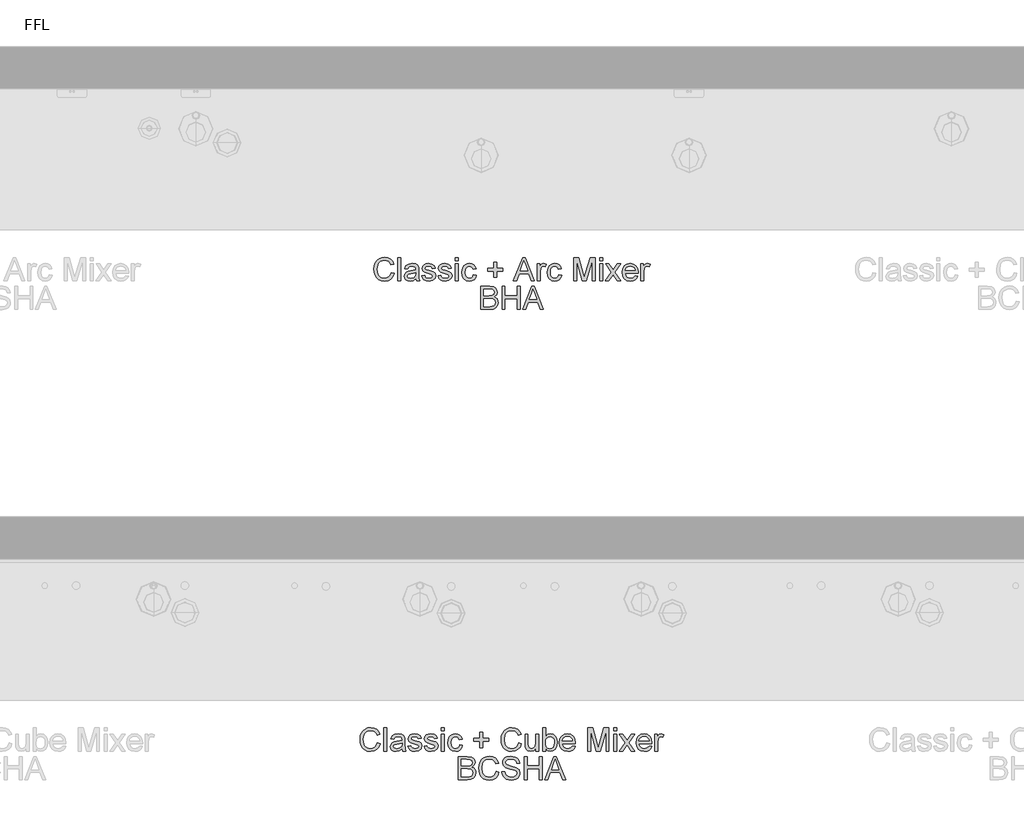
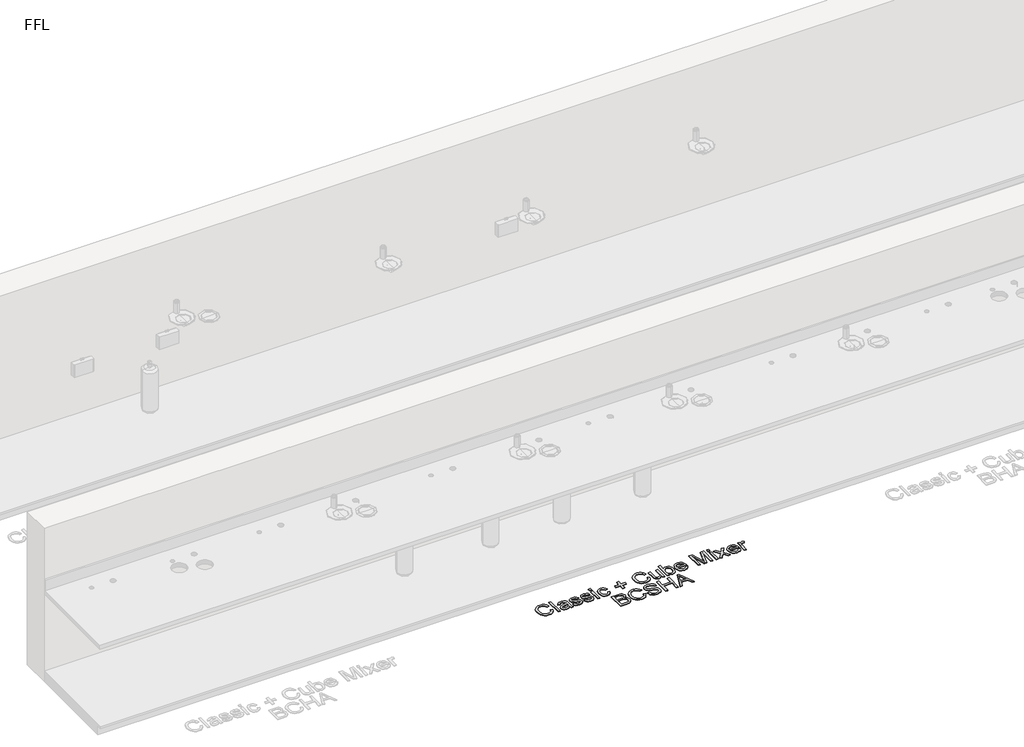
# One storey, part 8 of 13: 2 proxies.
"""IFC4 building model written with IfcOpenShell, lengths in millimetres."""

import ifcopenshell
import ifcopenshell.guid

model = None  # the IFC model being written
_history = None  # IfcOwnerHistory: only IFC2X3 demands one
_inside = {}  # id of a spatial element -> (the spatial element, [elements in it])
_under = {}  # id of a project, library or spatial element -> (it, [spatial elements below it])
_declared = {}  # id of a project -> (the project, [libraries it declares])
_typed = {}  # id of a type object -> (the type object, [elements of that type])
_made_of = {}  # id of a material, layer set ... -> (it, [elements and type objects made of it])


def new_model(schema):
    """Start an empty IFC model of exactly this schema.

    Asked for "IFC4X3", IfcOpenShell would pick the latest addendum, in which some entities
    have other attributes; the version numbers below select the first issue.
    IFC2X3 requires an IfcOwnerHistory on every rooted entity: one is made here for all.
    """
    global model, _history
    if schema == "IFC4X3":
        model = ifcopenshell.file(schema_version=(4, 3, 0, 0))
    else:
        model = ifcopenshell.file(schema=schema)
    _inside.clear()
    _under.clear()
    _declared.clear()
    _typed.clear()
    _made_of.clear()
    _history = None
    if model.schema == "IFC2X3":
        org = make("IfcOrganization", Name="unknown")
        user = make(
            "IfcPersonAndOrganization",
            ThePerson=make("IfcPerson", FamilyName="unknown"),
            TheOrganization=org,
        )
        app = make(
            "IfcApplication",
            ApplicationDeveloper=org,
            Version="unknown",
            ApplicationFullName="unknown",
            ApplicationIdentifier="unknown",
        )
        _history = make(
            "IfcOwnerHistory",
            OwningUser=user,
            OwningApplication=app,
            ChangeAction="ADDED",
            CreationDate=0,
        )
    return model


def make(cls, **values):
    """One entity of the class cls with the attributes given. An attribute that is None is left unset."""
    return model.create_entity(
        cls, **{name: value for name, value in values.items() if value is not None}
    )


def rooted(cls, **values):
    """An entity with a GlobalId (a new one), such as an element, a storey or a relation."""
    return make(cls, GlobalId=ifcopenshell.guid.new(), OwnerHistory=_history, **values)


def si_unit(unit_type, name, prefix=None):
    """IfcSIUnit, for example si_unit("LENGTHUNIT", "METRE", prefix="MILLI")."""
    return make("IfcSIUnit", UnitType=unit_type, Prefix=prefix, Name=name)


def assignment(units):
    """IfcUnitAssignment: the units of a project."""
    return None if units is None else make("IfcUnitAssignment", Units=units)


def point(xyz):
    """IfcCartesianPoint."""
    return None if xyz is None else make("IfcCartesianPoint", Coordinates=xyz)


def direction(xyz):
    """IfcDirection."""
    return None if xyz is None else make("IfcDirection", DirectionRatios=xyz)


def frame(location, z_axis=None, x_axis=None):
    """IfcAxis2Placement3D, a coordinate frame: its origin and axes. An axis left out is left unset."""
    return make(
        "IfcAxis2Placement3D",
        Location=point(location),
        Axis=direction(z_axis),
        RefDirection=direction(x_axis),
    )


def origin():
    """The frame at (0, 0, 0) with its axes left unset."""
    return frame((0.0, 0.0, 0.0))


def origin_with_axes():
    """The frame at (0, 0, 0) with the z axis (0, 0, 1) and the x axis (1, 0, 0) written out."""
    return frame((0.0, 0.0, 0.0), z_axis=(0.0, 0.0, 1.0), x_axis=(1.0, 0.0, 0.0))


def place(relative_to, where):
    """IfcLocalPlacement: puts the frame where relative to a parent placement (None: the world)."""
    return make(
        "IfcLocalPlacement", PlacementRelTo=relative_to, RelativePlacement=where
    )


def context(
    kind, dimensions, precision=None, world=None, true_north=None, identifier=None
):
    """IfcGeometricRepresentationContext, for example the 3D "Model" context."""
    return make(
        "IfcGeometricRepresentationContext",
        ContextIdentifier=identifier,
        ContextType=kind,
        CoordinateSpaceDimension=dimensions,
        Precision=precision,
        WorldCoordinateSystem=world,
        TrueNorth=true_north,
    )


def project(units=None, contexts=None):
    """IfcProject with its units and contexts."""
    return rooted(
        "IfcProject",
        Name="project",
        RepresentationContexts=contexts,
        UnitsInContext=assignment(units),
    )


def spatial(cls, under=None, at=None, **own):
    """A site, building, storey or space (cls), placed at a placement, below another one or the project."""
    s = rooted(cls, ObjectPlacement=at, **own)
    if under is not None:
        _under.setdefault(under.id(), (under, []))[1].append(s)
    return s


def polyline(points):
    """IfcPolyline through the points."""
    return make("IfcPolyline", Points=[point(p) for p in points])


def outline(outer, holes=None, kind="AREA"):
    """IfcArbitraryClosedProfileDef: a profile drawn as a closed curve; with holes, ...WithVoids."""
    if holes is None:
        return make("IfcArbitraryClosedProfileDef", ProfileType=kind, OuterCurve=outer)
    return make(
        "IfcArbitraryProfileDefWithVoids",
        ProfileType=kind,
        OuterCurve=outer,
        InnerCurves=holes,
    )


def extrude(swept, where, along, depth):
    """IfcExtrudedAreaSolid: the profile swept, set in the frame where, extruded along a direction by depth."""
    return make(
        "IfcExtrudedAreaSolid",
        SweptArea=swept,
        Position=where,
        ExtrudedDirection=direction(along),
        Depth=depth,
    )


def shape(context_of_items, identifier, shape_type, items):
    """IfcShapeRepresentation: the items that make up one representation, for example the "Body"."""
    return make(
        "IfcShapeRepresentation",
        ContextOfItems=context_of_items,
        RepresentationIdentifier=identifier,
        RepresentationType=shape_type,
        Items=items,
    )


def made_of(thing, what):
    """Note that an element or type object is made of a material, layer set ...; save() writes the relation."""
    if what is not None:
        _made_of.setdefault(what.id(), (what, []))[1].append(thing)
    return thing


def element(
    cls,
    number,
    at=None,
    inside=None,
    cuts=None,
    type_object=None,
    material=None,
    context=None,
    identifier="Body",
    shape_type=None,
    held_by="IfcProductDefinitionShape",
    body=None,
    shapes=None,
    **own,
):
    """One element of the class cls, such as IfcWall. Its Tag is "e" and its number.

    at: its placement. inside: the storey or other place that contains it. cuts: it is an
    opening in that element (IfcRelVoidsElement). A single representation is given by context,
    identifier, shape_type and body (its items); several are given by shapes. held_by: the class
    of the entity that holds the representations. save() writes the other relations.
    """
    e = rooted(cls, Tag="e%d" % number, ObjectPlacement=at, **own)
    if body is not None:
        shapes = [shape(context, identifier, shape_type, body)]
    if shapes is not None:
        e.Representation = make(held_by, Representations=shapes)
    if inside is not None:
        _inside.setdefault(inside.id(), (inside, []))[1].append(e)
    if cuts is not None:
        rooted(
            "IfcRelVoidsElement", RelatingBuildingElement=cuts, RelatedOpeningElement=e
        )
    if type_object is not None:
        _typed.setdefault(type_object.id(), (type_object, []))[1].append(e)
    return made_of(e, material)


def aggregate(whole, parts):
    """IfcRelAggregates: a whole, such as a stair, and the parts it consists of."""
    return rooted("IfcRelAggregates", RelatingObject=whole, RelatedObjects=parts)


def save(model, path):
    """Write the relations noted so far, then the file.

    IfcRelAggregates (storeys below a building ...), IfcRelContainedInSpatialStructure (elements
    in a storey), IfcRelDefinesByType, IfcRelAssociatesMaterial and IfcRelDeclares: one each for
    every whole, place, type object, material and project.
    """
    for whole, parts in _under.values():
        aggregate(whole, parts)
    for where, things in _inside.values():
        rooted(
            "IfcRelContainedInSpatialStructure",
            RelatedElements=things,
            RelatingStructure=where,
        )
    for kind, things in _typed.values():
        rooted("IfcRelDefinesByType", RelatedObjects=things, RelatingType=kind)
    for what, things in _made_of.values():
        rooted("IfcRelAssociatesMaterial", RelatedObjects=things, RelatingMaterial=what)
    for by, libraries in _declared.values():
        rooted("IfcRelDeclares", RelatingContext=by, RelatedDefinitions=libraries)
    model.write(path)


model = new_model("IFC4")

# Units and contexts
model_context = context("Model", 3, world=origin())
ifc_project = project(units=[si_unit("LENGTHUNIT", "METRE", prefix="MILLI")], contexts=[model_context])

# Site, building, storey
site = spatial("IfcSite", under=ifc_project)
building = spatial("IfcBuilding", under=site)
storey = spatial("IfcBuildingStorey", under=building, Name="FFL", Elevation=0.0)

# Proxies
placement = place(None, origin())
element("IfcBuildingElementProxy", 1, Name="150mm Arial", ObjectType="150mm Arial", at=placement, inside=storey, context=model_context, shape_type="SweptSolid", body=[
    extrude(outline(polyline([(391.419638, 3676.3018309), (409.8811765, 3671.5422155), (401.3625467, 3650.0292948), (387.9941573, 3634.3126482), (370.4340611, 3624.698766), (349.3403111, 3621.4941386), (327.9265491, 3623.9190184), (310.92084, 3631.1936578), (297.8859842, 3643.065653), (288.3847823, 3659.2826001), (282.584001, 3678.3481049), (280.6504073, 3698.7657732), (282.8364049, 3720.3012299), (289.3943976, 3738.8979847), (299.9818375, 3753.9655929), (314.2561765, 3764.9136097), (331.185263, 3771.5797756), (349.7369457, 3773.8018309), (369.9788327, 3770.9262299), (386.7141092, 3762.299427), (399.4199385, 3748.4532732), (407.5734842, 3729.9196193), (389.1119457, 3725.5205809), (382.7117053, 3738.9836217), (373.967715, 3748.2188982), (362.7718015, 3753.5599439), (349.0157919, 3755.3402924), (333.1594217, 3753.3661338), (320.1335803, 3747.4436578), (310.2492654, 3738.1948597), (303.8174746, 3726.2417347), (299.1119457, 3698.8018309), (304.6828592, 3666.9989463), (311.8042534, 3655.1224439), (322.0266092, 3646.6804367), (334.2817174, 3641.6368669), (347.5013688, 3639.955677), (362.911525, 3642.2453405), (375.7525707, 3649.1143309), (385.4475827, 3660.4905328), (391.419638, 3676.3018309)])), origin_with_axes(), (0.0, 0.0, 1.0), 5.0),
    extrude(outline(polyline([(432.9580996, 3623.8018309), (432.9580996, 3771.4941386), (451.419638, 3771.4941386), (451.419638, 3623.8018309), (432.9580996, 3623.8018309)])), origin_with_axes(), (0.0, 0.0, 1.0), 5.0),
    extrude(outline(polyline([(548.342715, 3637.6479847), (530.4400707, 3625.1359655), (510.6624265, 3621.4941386), (495.2342414, 3623.6846434), (483.8535323, 3630.2561578), (476.8358039, 3640.2351242), (474.4965611, 3652.6479847), (478.030215, 3667.2513501), (487.3150707, 3677.8523117), (500.2417534, 3683.910004), (516.2153111, 3686.6864463), (548.2345419, 3693.0326001), (548.342715, 3697.143177), (547.0716813, 3705.3823597), (543.2585803, 3710.7729847), (534.7309361, 3714.7753886), (522.8499265, 3716.1095232), (504.1720419, 3712.5578405), (495.2657919, 3699.955677), (476.8042534, 3702.2633693), (484.7910323, 3720.2922155), (500.872763, 3730.8571193), (525.2297342, 3734.5710617), (547.6035323, 3731.2898117), (560.2417534, 3723.050629), (565.9028111, 3710.5205809), (566.8042534, 3694.3667347), (566.8042534, 3671.3979847), (567.7417534, 3639.3246674), (571.419638, 3623.8018309), (552.9580996, 3623.8018309), (548.342715, 3637.6479847)]), holes=[polyline([(548.342715, 3674.5710617), (518.5590611, 3668.910004), (502.6756476, 3665.9172155), (495.482138, 3661.049427), (492.9580996, 3653.9460617), (498.4568976, 3643.9580809), (514.592715, 3639.955677), (533.2705996, 3644.3727443), (545.3138688, 3655.0638501), (548.2345419, 3669.3426963), (548.342715, 3674.5710617)])]), origin_with_axes(), (0.0, 0.0, 1.0), 5.0),
    extrude(outline(polyline([(585.2657919, 3656.1095232), (603.7273303, 3658.4172155), (606.638989, 3650.5205809), (612.2730034, 3644.7152924), (631.8523303, 3639.955677), (650.6744457, 3644.3186578), (656.8042534, 3654.5590424), (650.638388, 3662.8523117), (631.6359842, 3668.1167347), (603.8355034, 3677.1491867), (591.70209, 3687.6960617), (587.5734842, 3702.5878886), (590.8907919, 3716.3438982), (599.9412726, 3726.8547155), (611.6780515, 3732.3174559), (627.561465, 3734.5710617), (650.0254073, 3730.9472636), (664.3042534, 3721.1395713), (670.6504073, 3704.5710617), (652.1888688, 3702.2633693), (645.247763, 3712.4496674), (629.0037726, 3716.1095232), (611.3355034, 3712.611927), (606.0350226, 3704.4628886), (608.2345419, 3699.0902924), (615.1215611, 3695.0157732), (631.0230034, 3691.0854847), (658.1203592, 3682.3955809), (670.7044938, 3672.5518309), (675.2657919, 3656.5061578), (669.9112246, 3638.8378886), (654.4605034, 3626.019379), (631.5999265, 3621.4941386), (612.9851428, 3623.675629), (599.4004073, 3630.2201001), (590.3318976, 3641.0554367), (585.2657919, 3656.1095232)])), origin_with_axes(), (0.0, 0.0, 1.0), 5.0),
    extrude(outline(polyline([(689.1119457, 3656.1095232), (707.5734842, 3658.4172155), (710.4851428, 3650.5205809), (716.1191573, 3644.7152924), (735.6984842, 3639.955677), (754.5205996, 3644.3186578), (760.6504073, 3654.5590424), (754.4845419, 3662.8523117), (735.482138, 3668.1167347), (707.6816573, 3677.1491867), (695.5482438, 3687.6960617), (691.419638, 3702.5878886), (694.7369457, 3716.3438982), (703.7874265, 3726.8547155), (715.5242053, 3732.3174559), (731.4076188, 3734.5710617), (753.8715611, 3730.9472636), (768.1504073, 3721.1395713), (774.4965611, 3704.5710617), (756.0350226, 3702.2633693), (749.0939169, 3712.4496674), (732.8499265, 3716.1095232), (715.1816573, 3712.611927), (709.8811765, 3704.4628886), (712.0806957, 3699.0902924), (718.967715, 3695.0157732), (734.8691573, 3691.0854847), (761.966513, 3682.3955809), (774.5506476, 3672.5518309), (779.1119457, 3656.5061578), (773.7573784, 3638.8378886), (758.3066573, 3626.019379), (735.4460803, 3621.4941386), (716.8312967, 3623.675629), (703.2465611, 3630.2201001), (694.1780515, 3641.0554367), (689.1119457, 3656.1095232)])), origin_with_axes(), (0.0, 0.0, 1.0), 5.0),
    extrude(outline(polyline([(799.8811765, 3623.8018309), (799.8811765, 3732.2633693), (818.342715, 3732.2633693), (818.342715, 3623.8018309), (799.8811765, 3623.8018309)])), origin_with_axes(), (0.0, 0.0, 1.0), 5.0),
    extrude(outline(polyline([(799.8811765, 3753.0326001), (799.8811765, 3771.4941386), (818.342715, 3771.4941386), (818.342715, 3753.0326001), (799.8811765, 3753.0326001)])), origin_with_axes(), (0.0, 0.0, 1.0), 5.0),
    extrude(outline(polyline([(915.2657919, 3663.0326001), (933.7273303, 3660.7249078), (928.5800948, 3644.3051362), (918.9076188, 3631.8967828), (905.6203592, 3624.0947996), (889.6287726, 3621.4941386), (869.990852, 3625.1224439), (854.6347823, 3636.0073597), (844.7234241, 3653.6711217), (841.419638, 3677.6359655), (847.0626669, 3708.3030328), (854.1840611, 3719.8009294), (864.2621861, 3728.0085617), (876.318977, 3732.9304367), (889.3763688, 3734.5710617), (904.9758279, 3732.3174559), (917.4472823, 3725.5566386), (926.3940972, 3714.6491867), (931.419638, 3699.955677), (912.9580996, 3697.6479847), (904.3943976, 3711.4761097), (889.5205996, 3716.1095232), (877.5900106, 3713.8288742), (868.1203592, 3706.986927), (861.9409722, 3695.2140905), (859.8811765, 3678.1407732), (861.8959, 3660.8375881), (867.9400707, 3649.0241867), (877.2384481, 3642.2228044), (889.0157919, 3639.955677), (898.5755875, 3641.3709415), (906.4136284, 3645.6167347), (912.115251, 3652.8012299), (915.2657919, 3663.0326001)])), origin_with_axes(), (0.0, 0.0, 1.0), 5.0),
    extrude(outline(polyline([(1044.4965611, 3646.878754), (1044.4965611, 3686.1095232), (1005.2657919, 3686.1095232), (1005.2657919, 3704.5710617), (1044.4965611, 3704.5710617), (1044.4965611, 3743.8018309), (1062.9580996, 3743.8018309), (1062.9580996, 3704.5710617), (1102.1888688, 3704.5710617), (1102.1888688, 3686.1095232), (1062.9580996, 3686.1095232), (1062.9580996, 3646.878754), (1044.4965611, 3646.878754)])), origin_with_axes(), (0.0, 0.0, 1.0), 5.0),
    extrude(outline(polyline([(1170.373965, 3623.8018309), (1229.3282919, 3771.4941386), (1245.0494457, 3771.4941386), (1304.0037726, 3623.8018309), (1284.4965611, 3623.8018309), (1267.5855034, 3669.955677), (1206.7561765, 3669.955677), (1189.8811765, 3623.8018309), (1170.373965, 3623.8018309)]), holes=[polyline([(1213.5350226, 3688.4172155), (1260.842715, 3688.4172155), (1247.5374265, 3724.7273117), (1237.1888688, 3753.0326001), (1227.9941573, 3727.9003886), (1213.5350226, 3688.4172155)])]), origin_with_axes(), (0.0, 0.0, 1.0), 5.0),
    extrude(outline(polyline([(1321.419638, 3623.8018309), (1321.419638, 3732.2633693), (1337.5734842, 3732.2633693), (1337.5734842, 3716.2176963), (1349.0398303, 3731.0013501), (1360.5782919, 3734.5710617), (1379.1119457, 3728.8739463), (1372.9460803, 3712.3234655), (1359.9653111, 3716.1095232), (1349.5266092, 3712.4676963), (1342.873965, 3702.3715424), (1339.8811765, 3680.8090424), (1339.8811765, 3623.8018309), (1321.419638, 3623.8018309)])), origin_with_axes(), (0.0, 0.0, 1.0), 5.0),
    extrude(outline(polyline([(1459.8811765, 3663.0326001), (1478.342715, 3660.7249078), (1473.1954794, 3644.3051362), (1463.5230034, 3631.8967828), (1450.2357438, 3624.0947996), (1434.2441573, 3621.4941386), (1414.6062366, 3625.1224439), (1399.2501669, 3636.0073597), (1389.3388087, 3653.6711217), (1386.0350226, 3677.6359655), (1391.6780515, 3708.3030328), (1398.7994457, 3719.8009294), (1408.8775707, 3728.0085617), (1420.9343616, 3732.9304367), (1433.9917534, 3734.5710617), (1449.5912125, 3732.3174559), (1462.0626669, 3725.5566386), (1471.0094818, 3714.6491867), (1476.0350226, 3699.955677), (1457.5734842, 3697.6479847), (1449.0097823, 3711.4761097), (1434.1359842, 3716.1095232), (1422.2053952, 3713.8288742), (1412.7357438, 3706.986927), (1406.5563568, 3695.2140905), (1404.4965611, 3678.1407732), (1406.5112847, 3660.8375881), (1412.5554553, 3649.0241867), (1421.8538327, 3642.2228044), (1433.6311765, 3639.955677), (1443.1909722, 3641.3709415), (1451.029013, 3645.6167347), (1456.7306356, 3652.8012299), (1459.8811765, 3663.0326001)])), origin_with_axes(), (0.0, 0.0, 1.0), 5.0),
    extrude(outline(polyline([(1554.4965611, 3623.8018309), (1554.4965611, 3771.4941386), (1586.263388, 3771.4941386), (1616.4797342, 3667.3955809), (1622.5734842, 3645.6527924), (1629.1720419, 3669.1984655), (1658.8835803, 3771.4941386), (1690.6504073, 3771.4941386), (1690.6504073, 3623.8018309), (1672.1888688, 3623.8018309), (1672.1888688, 3753.0326001), (1635.0855034, 3623.8018309), (1610.061465, 3623.8018309), (1572.9580996, 3753.0326001), (1572.9580996, 3623.8018309), (1554.4965611, 3623.8018309)])), origin_with_axes(), (0.0, 0.0, 1.0), 5.0),
    extrude(outline(polyline([(1720.6504073, 3753.0326001), (1720.6504073, 3771.4941386), (1739.1119457, 3771.4941386), (1739.1119457, 3753.0326001), (1720.6504073, 3753.0326001)])), origin_with_axes(), (0.0, 0.0, 1.0), 5.0),
    extrude(outline(polyline([(1720.6504073, 3623.8018309), (1720.6504073, 3732.2633693), (1739.1119457, 3732.2633693), (1739.1119457, 3623.8018309), (1720.6504073, 3623.8018309)])), origin_with_axes(), (0.0, 0.0, 1.0), 5.0),
    extrude(outline(polyline([(1755.2657919, 3623.8018309), (1794.7129073, 3678.3210617), (1757.5734842, 3732.2633693), (1779.7850226, 3732.2633693), (1797.7056957, 3706.3018309), (1806.0710803, 3694.0422155), (1813.3186765, 3704.066254), (1833.7273303, 3732.2633693), (1855.9388688, 3732.2633693), (1816.9244457, 3678.3210617), (1854.4965611, 3623.8018309), (1832.2850226, 3623.8018309), (1809.6768496, 3656.5782732), (1805.530215, 3662.5638501), (1777.4773303, 3623.8018309), (1755.2657919, 3623.8018309)])), origin_with_axes(), (0.0, 0.0, 1.0), 5.0),
    extrude(outline(polyline([(1946.5879073, 3656.1095232), (1964.6888688, 3653.8018309), (1958.1669337, 3640.1630088), (1947.7597823, 3629.9676963), (1933.7017895, 3623.612528), (1916.2273303, 3621.4941386), (1894.5656717, 3625.1494871), (1877.8980034, 3636.1155328), (1867.2699986, 3653.6801362), (1863.7273303, 3677.1311578), (1867.3060563, 3701.3709415), (1878.0422342, 3719.4989463), (1894.4845419, 3730.8030328), (1915.1816573, 3734.5710617), (1935.2342414, 3730.8120472), (1951.2573784, 3719.535004), (1961.7636885, 3701.4430568), (1965.2657919, 3677.2393309), (1965.1576188, 3672.2633693), (1882.1888688, 3672.2633693), (1885.3844818, 3658.4442588), (1892.8078592, 3648.285004), (1903.521501, 3642.0380088), (1916.5879073, 3639.955677), (1934.6888688, 3643.8138501), (1946.5879073, 3656.1095232)]), holes=[polyline([(1882.1888688, 3690.7249078), (1946.8042534, 3690.7249078), (1944.3072582, 3700.4785136), (1939.4124265, 3707.455677), (1928.6492053, 3713.9460617), (1915.1095419, 3716.1095232), (1902.6651308, 3714.3832612), (1892.3751669, 3709.2044751), (1885.2222222, 3701.1320592), (1882.1888688, 3690.7249078)])]), origin_with_axes(), (0.0, 0.0, 1.0), 5.0),
    extrude(outline(polyline([(1983.7273303, 3623.8018309), (1983.7273303, 3732.2633693), (1999.8811765, 3732.2633693), (1999.8811765, 3716.2176963), (2011.3475226, 3731.0013501), (2022.8859842, 3734.5710617), (2041.419638, 3728.8739463), (2035.2537726, 3712.3234655), (2022.2730034, 3716.1095232), (2011.8343015, 3712.4676963), (2005.1816573, 3702.3715424), (2002.1888688, 3680.8090424), (2002.1888688, 3623.8018309), (1983.7273303, 3623.8018309)])), origin_with_axes(), (0.0, 0.0, 1.0), 5.0),
    extrude(outline(polyline([(961.419638, 3441.4941386), (961.419638, 3589.1864463), (1017.7778111, 3589.1864463), (1045.3799746, 3584.8414943), (1054.6558159, 3579.3291746), (1061.6780515, 3571.4821193), (1067.5734842, 3552.5878886), (1062.6155515, 3535.3342828), (1047.6335803, 3522.2633693), (1058.0948183, 3516.800629), (1065.8246861, 3508.4893309), (1070.5978231, 3497.8793549), (1072.1888688, 3485.5205809), (1067.8439169, 3465.6708213), (1057.0806957, 3451.5362059), (1041.0169938, 3444.0362059), (1017.3451188, 3441.4941386), (961.419638, 3441.4941386)]), holes=[polyline([(979.8811765, 3529.1864463), (1013.5951188, 3529.1864463), (1033.2826188, 3530.7729847), (1045.1275707, 3537.6059174), (1049.1119457, 3549.6311578), (1045.3980034, 3561.674427), (1034.7609842, 3568.7958213), (1011.0350226, 3570.7249078), (979.8811765, 3570.7249078), (979.8811765, 3529.1864463)]), polyline([(979.8811765, 3459.955677), (1017.7417534, 3459.955677), (1031.4436765, 3460.6768309), (1043.0362246, 3464.6972636), (1050.716513, 3472.9003886), (1053.7273303, 3485.3402924), (1050.1936765, 3499.691254), (1038.7453592, 3508.2549559), (1015.9388688, 3510.7249078), (979.8811765, 3510.7249078), (979.8811765, 3459.955677)])]), origin_with_axes(), (0.0, 0.0, 1.0), 5.0),
    extrude(outline(polyline([(1097.5734842, 3441.4941386), (1097.5734842, 3589.1864463), (1116.0350226, 3589.1864463), (1116.0350226, 3529.1864463), (1194.4965611, 3529.1864463), (1194.4965611, 3589.1864463), (1212.9580996, 3589.1864463), (1212.9580996, 3441.4941386), (1194.4965611, 3441.4941386), (1194.4965611, 3510.7249078), (1116.0350226, 3510.7249078), (1116.0350226, 3441.4941386), (1097.5734842, 3441.4941386)])), origin_with_axes(), (0.0, 0.0, 1.0), 5.0),
    extrude(outline(polyline([(1228.0662726, 3441.4941386), (1287.0205996, 3589.1864463), (1302.7417534, 3589.1864463), (1361.6960803, 3441.4941386), (1342.1888688, 3441.4941386), (1325.2778111, 3487.6479847), (1264.4484842, 3487.6479847), (1247.5734842, 3441.4941386), (1228.0662726, 3441.4941386)]), holes=[polyline([(1271.2273303, 3506.1095232), (1318.5350226, 3506.1095232), (1305.2297342, 3542.4196193), (1294.8811765, 3570.7249078), (1285.686465, 3545.5926963), (1271.2273303, 3506.1095232)])]), origin_with_axes(), (0.0, 0.0, 1.0), 5.0),
])
element("IfcBuildingElementProxy", 2, Name="150mm Arial", ObjectType="150mm Arial", at=placement, inside=storey, context=model_context, shape_type="SweptSolid", body=[
    extrude(outline(polyline([(302.5723994, 676.3018309), (321.0339379, 671.5422155), (312.5153081, 650.0292948), (299.1469187, 634.3126482), (281.5868225, 624.698766), (260.4930725, 621.4941386), (239.0793105, 623.9190184), (222.0736014, 631.1936578), (209.0387456, 643.065653), (199.5375437, 659.2826001), (193.7367624, 678.3481049), (191.8031687, 698.7657732), (193.9891663, 720.3012299), (200.5471591, 738.8979847), (211.134599, 753.9655929), (225.4089379, 764.9136097), (242.3380244, 771.5797756), (260.8897071, 773.8018309), (281.1315941, 770.9262299), (297.8668706, 762.299427), (310.5726999, 748.4532732), (318.7262456, 729.9196193), (300.2647071, 725.5205809), (293.8644667, 738.9836217), (285.1204764, 748.2188982), (273.9245629, 753.5599439), (260.1685533, 755.3402924), (244.3121831, 753.3661338), (231.2863417, 747.4436578), (221.4020268, 738.1948597), (214.970236, 726.2417347), (210.2647071, 698.8018309), (215.8356206, 666.9989463), (222.9570148, 655.1224439), (233.1793706, 646.6804367), (245.4344788, 641.6368669), (258.6541302, 639.955677), (274.0642865, 642.2453405), (286.9053321, 649.1143309), (296.6003441, 660.4905328), (302.5723994, 676.3018309)])), origin_with_axes(), (0.0, 0.0, 1.0), 5.0),
    extrude(outline(polyline([(344.110861, 623.8018309), (344.110861, 771.4941386), (362.5723994, 771.4941386), (362.5723994, 623.8018309), (344.110861, 623.8018309)])), origin_with_axes(), (0.0, 0.0, 1.0), 5.0),
    extrude(outline(polyline([(459.4954764, 637.6479847), (441.5928321, 625.1359655), (421.8151879, 621.4941386), (406.3870028, 623.6846434), (395.0062937, 630.2561578), (387.9885653, 640.2351242), (385.6493225, 652.6479847), (389.1829764, 667.2513501), (398.4678321, 677.8523117), (411.3945148, 683.910004), (427.3680725, 686.6864463), (459.3873033, 693.0326001), (459.4954764, 697.143177), (458.2244427, 705.3823597), (454.4113417, 710.7729847), (445.8836975, 714.7753886), (434.0026879, 716.1095232), (415.3248033, 712.5578405), (406.4185533, 699.955677), (387.9570148, 702.2633693), (395.9437937, 720.2922155), (412.0255244, 730.8571193), (436.3824956, 734.5710617), (458.7562937, 731.2898117), (471.3945148, 723.050629), (477.0555725, 710.5205809), (477.9570148, 694.3667347), (477.9570148, 671.3979847), (478.8945148, 639.3246674), (482.5723994, 623.8018309), (464.110861, 623.8018309), (459.4954764, 637.6479847)]), holes=[polyline([(459.4954764, 674.5710617), (429.7118225, 668.910004), (413.8284091, 665.9172155), (406.6348994, 661.049427), (404.110861, 653.9460617), (409.6096591, 643.9580809), (425.7454764, 639.955677), (444.423361, 644.3727443), (456.4666302, 655.0638501), (459.3873033, 669.3426963), (459.4954764, 674.5710617)])]), origin_with_axes(), (0.0, 0.0, 1.0), 5.0),
    extrude(outline(polyline([(496.4185533, 656.1095232), (514.8800917, 658.4172155), (517.7917504, 650.5205809), (523.4257648, 644.7152924), (543.0050917, 639.955677), (561.8272071, 644.3186578), (567.9570148, 654.5590424), (561.7911494, 662.8523117), (542.7887456, 668.1167347), (514.9882648, 677.1491867), (502.8548514, 687.6960617), (498.7262456, 702.5878886), (502.0435533, 716.3438982), (511.0940341, 726.8547155), (522.8308129, 732.3174559), (538.7142264, 734.5710617), (561.1781687, 730.9472636), (575.4570148, 721.1395713), (581.8031687, 704.5710617), (563.3416302, 702.2633693), (556.4005244, 712.4496674), (540.1565341, 716.1095232), (522.4882648, 712.611927), (517.1877841, 704.4628886), (519.3873033, 699.0902924), (526.2743225, 695.0157732), (542.1757648, 691.0854847), (569.2731206, 682.3955809), (581.8572552, 672.5518309), (586.4185533, 656.5061578), (581.063986, 638.8378886), (565.6132648, 626.019379), (542.7526879, 621.4941386), (524.1379042, 623.675629), (510.5531687, 630.2201001), (501.4846591, 641.0554367), (496.4185533, 656.1095232)])), origin_with_axes(), (0.0, 0.0, 1.0), 5.0),
    extrude(outline(polyline([(600.2647071, 656.1095232), (618.7262456, 658.4172155), (621.6379042, 650.5205809), (627.2719187, 644.7152924), (646.8512456, 639.955677), (665.673361, 644.3186578), (671.8031687, 654.5590424), (665.6373033, 662.8523117), (646.6348994, 668.1167347), (618.8344187, 677.1491867), (606.7010052, 687.6960617), (602.5723994, 702.5878886), (605.8897071, 716.3438982), (614.9401879, 726.8547155), (626.6769667, 732.3174559), (642.5603802, 734.5710617), (665.0243225, 730.9472636), (679.3031687, 721.1395713), (685.6493225, 704.5710617), (667.1877841, 702.2633693), (660.2466783, 712.4496674), (644.0026879, 716.1095232), (626.3344187, 712.611927), (621.0339379, 704.4628886), (623.2334571, 699.0902924), (630.1204764, 695.0157732), (646.0219187, 691.0854847), (673.1192744, 682.3955809), (685.7034091, 672.5518309), (690.2647071, 656.5061578), (684.9101398, 638.8378886), (669.4594187, 626.019379), (646.5988417, 621.4941386), (627.9840581, 623.675629), (614.3993225, 630.2201001), (605.3308129, 641.0554367), (600.2647071, 656.1095232)])), origin_with_axes(), (0.0, 0.0, 1.0), 5.0),
    extrude(outline(polyline([(711.0339379, 623.8018309), (711.0339379, 732.2633693), (729.4954764, 732.2633693), (729.4954764, 623.8018309), (711.0339379, 623.8018309)])), origin_with_axes(), (0.0, 0.0, 1.0), 5.0),
    extrude(outline(polyline([(711.0339379, 753.0326001), (711.0339379, 771.4941386), (729.4954764, 771.4941386), (729.4954764, 753.0326001), (711.0339379, 753.0326001)])), origin_with_axes(), (0.0, 0.0, 1.0), 5.0),
    extrude(outline(polyline([(826.4185533, 663.0326001), (844.8800917, 660.7249078), (839.7328562, 644.3051362), (830.0603802, 631.8967828), (816.7731206, 624.0947996), (800.7815341, 621.4941386), (781.1436134, 625.1224439), (765.7875437, 636.0073597), (755.8761855, 653.6711217), (752.5723994, 677.6359655), (758.2154283, 708.3030328), (765.3368225, 719.8009294), (775.4149475, 728.0085617), (787.4717384, 732.9304367), (800.5291302, 734.5710617), (816.1285893, 732.3174559), (828.6000437, 725.5566386), (837.5468586, 714.6491867), (842.5723994, 699.955677), (824.110861, 697.6479847), (815.5471591, 711.4761097), (800.673361, 716.1095232), (788.742772, 713.8288742), (779.2731206, 706.986927), (773.0937336, 695.2140905), (771.0339379, 678.1407732), (773.0486615, 660.8375881), (779.0928321, 649.0241867), (788.3912095, 642.2228044), (800.1685533, 639.955677), (809.728349, 641.3709415), (817.5663898, 645.6167347), (823.2680124, 652.8012299), (826.4185533, 663.0326001)])), origin_with_axes(), (0.0, 0.0, 1.0), 5.0),
    extrude(outline(polyline([(955.6493225, 646.878754), (955.6493225, 686.1095232), (916.4185533, 686.1095232), (916.4185533, 704.5710617), (955.6493225, 704.5710617), (955.6493225, 743.8018309), (974.110861, 743.8018309), (974.110861, 704.5710617), (1013.3416302, 704.5710617), (1013.3416302, 686.1095232), (974.110861, 686.1095232), (974.110861, 646.878754), (955.6493225, 646.878754)])), origin_with_axes(), (0.0, 0.0, 1.0), 5.0),
    extrude(outline(polyline([(1202.5723994, 676.3018309), (1221.0339379, 671.5422155), (1212.5153081, 650.0292948), (1199.1469187, 634.3126482), (1181.5868225, 624.698766), (1160.4930725, 621.4941386), (1139.0793105, 623.9190184), (1122.0736014, 631.1936578), (1109.0387456, 643.065653), (1099.5375437, 659.2826001), (1093.7367624, 678.3481049), (1091.8031687, 698.7657732), (1093.9891663, 720.3012299), (1100.5471591, 738.8979847), (1111.134599, 753.9655929), (1125.4089379, 764.9136097), (1142.3380244, 771.5797756), (1160.8897071, 773.8018309), (1181.1315941, 770.9262299), (1197.8668706, 762.299427), (1210.5726999, 748.4532732), (1218.7262456, 729.9196193), (1200.2647071, 725.5205809), (1193.8644667, 738.9836217), (1185.1204764, 748.2188982), (1173.9245629, 753.5599439), (1160.1685533, 755.3402924), (1144.3121831, 753.3661338), (1131.2863417, 747.4436578), (1121.4020268, 738.1948597), (1114.970236, 726.2417347), (1110.2647071, 698.8018309), (1115.8356206, 666.9989463), (1122.9570148, 655.1224439), (1133.1793706, 646.6804367), (1145.4344788, 641.6368669), (1158.6541302, 639.955677), (1174.0642865, 642.2453405), (1186.9053321, 649.1143309), (1196.6003441, 660.4905328), (1202.5723994, 676.3018309)])), origin_with_axes(), (0.0, 0.0, 1.0), 5.0),
    extrude(outline(polyline([(1313.3416302, 623.8018309), (1313.3416302, 642.4436578), (1298.8824956, 626.7315184), (1280.0243225, 621.4941386), (1262.6625437, 625.1720232), (1250.6913898, 634.4027924), (1245.1925917, 647.9965424), (1244.110861, 665.160004), (1244.110861, 732.2633693), (1262.5723994, 732.2633693), (1262.5723994, 673.8499078), (1263.6901879, 655.0277924), (1270.9918706, 643.9761097), (1284.7478802, 639.955677), (1300.1625437, 644.066254), (1310.3488417, 655.2621674), (1313.3416302, 675.8330809), (1313.3416302, 732.2633693), (1331.8031687, 732.2633693), (1331.8031687, 623.8018309), (1313.3416302, 623.8018309)])), origin_with_axes(), (0.0, 0.0, 1.0), 5.0),
    extrude(outline(polyline([(1375.6493225, 623.8018309), (1357.1877841, 623.8018309), (1357.1877841, 771.4941386), (1375.6493225, 771.4941386), (1375.6493225, 716.722504), (1388.5760052, 730.1089222), (1404.6397071, 734.5710617), (1423.1373033, 730.550629), (1437.4882648, 719.2465424), (1446.3043706, 701.6684174), (1449.4954764, 679.6551963), (1446.1916903, 655.0097636), (1436.2803321, 636.674427), (1421.7355605, 625.2892107), (1404.5315341, 621.4941386), (1388.1162696, 626.3889703), (1375.6493225, 641.0734655), (1375.6493225, 623.8018309)]), holes=[polyline([(1375.6493225, 678.7898117), (1376.9113417, 663.393177), (1380.6973994, 652.972504), (1390.3698754, 643.2098838), (1402.9449956, 639.955677), (1413.6000437, 642.3535136), (1422.704611, 649.5470232), (1428.9516062, 661.4911338), (1431.0339379, 678.1407732), (1429.0372432, 695.033802), (1423.0471591, 706.8426963), (1414.2265461, 713.7928165), (1403.7382648, 716.1095232), (1393.0832167, 713.7116867), (1383.9786494, 706.518177), (1377.7316542, 694.7904126), (1375.6493225, 678.7898117)])]), origin_with_axes(), (0.0, 0.0, 1.0), 5.0),
    extrude(outline(polyline([(1546.2022071, 656.1095232), (1564.3031687, 653.8018309), (1557.7812336, 640.1630088), (1547.3740821, 629.9676963), (1533.3160893, 623.612528), (1515.8416302, 621.4941386), (1494.1799716, 625.1494871), (1477.5123033, 636.1155328), (1466.8842985, 653.6801362), (1463.3416302, 677.1311578), (1466.9203562, 701.3709415), (1477.6565341, 719.4989463), (1494.0988417, 730.8030328), (1514.7959571, 734.5710617), (1534.8485413, 730.8120472), (1550.8716783, 719.535004), (1561.3779884, 701.4430568), (1564.8800917, 677.2393309), (1564.7719187, 672.2633693), (1481.8031687, 672.2633693), (1484.9987816, 658.4442588), (1492.4221591, 648.285004), (1503.1358009, 642.0380088), (1516.2022071, 639.955677), (1534.3031687, 643.8138501), (1546.2022071, 656.1095232)]), holes=[polyline([(1481.8031687, 690.7249078), (1546.4185533, 690.7249078), (1543.9215581, 700.4785136), (1539.0267264, 707.455677), (1528.2635052, 713.9460617), (1514.7238417, 716.1095232), (1502.2794307, 714.3832612), (1491.9894667, 709.2044751), (1484.836522, 701.1320592), (1481.8031687, 690.7249078)])]), origin_with_axes(), (0.0, 0.0, 1.0), 5.0),
    extrude(outline(polyline([(1643.3416302, 623.8018309), (1643.3416302, 771.4941386), (1675.1084571, 771.4941386), (1705.3248033, 667.3955809), (1711.4185533, 645.6527924), (1718.017111, 669.1984655), (1747.7286494, 771.4941386), (1779.4954764, 771.4941386), (1779.4954764, 623.8018309), (1761.0339379, 623.8018309), (1761.0339379, 753.0326001), (1723.9305725, 623.8018309), (1698.9065341, 623.8018309), (1661.8031687, 753.0326001), (1661.8031687, 623.8018309), (1643.3416302, 623.8018309)])), origin_with_axes(), (0.0, 0.0, 1.0), 5.0),
    extrude(outline(polyline([(1809.4954764, 623.8018309), (1809.4954764, 732.2633693), (1827.9570148, 732.2633693), (1827.9570148, 623.8018309), (1809.4954764, 623.8018309)])), origin_with_axes(), (0.0, 0.0, 1.0), 5.0),
    extrude(outline(polyline([(1809.4954764, 753.0326001), (1809.4954764, 771.4941386), (1827.9570148, 771.4941386), (1827.9570148, 753.0326001), (1809.4954764, 753.0326001)])), origin_with_axes(), (0.0, 0.0, 1.0), 5.0),
    extrude(outline(polyline([(1844.110861, 623.8018309), (1883.5579764, 678.3210617), (1846.4185533, 732.2633693), (1868.6300917, 732.2633693), (1886.5507648, 706.3018309), (1894.9161494, 694.0422155), (1902.1637456, 704.066254), (1922.5723994, 732.2633693), (1944.7839379, 732.2633693), (1905.7695148, 678.3210617), (1943.3416302, 623.8018309), (1921.1300917, 623.8018309), (1898.5219187, 656.5782732), (1894.3752841, 662.5638501), (1866.3223994, 623.8018309), (1844.110861, 623.8018309)])), origin_with_axes(), (0.0, 0.0, 1.0), 5.0),
    extrude(outline(polyline([(2035.4329764, 656.1095232), (2053.5339379, 653.8018309), (2047.0120028, 640.1630088), (2036.6048514, 629.9676963), (2022.5468586, 623.612528), (2005.0723994, 621.4941386), (1983.4107408, 625.1494871), (1966.7430725, 636.1155328), (1956.1150677, 653.6801362), (1952.5723994, 677.1311578), (1956.1511254, 701.3709415), (1966.8873033, 719.4989463), (1983.329611, 730.8030328), (2004.0267264, 734.5710617), (2024.0793105, 730.8120472), (2040.1024475, 719.535004), (2050.6087576, 701.4430568), (2054.110861, 677.2393309), (2054.0026879, 672.2633693), (1971.0339379, 672.2633693), (1974.2295509, 658.4442588), (1981.6529283, 648.285004), (1992.3665701, 642.0380088), (2005.4329764, 639.955677), (2023.5339379, 643.8138501), (2035.4329764, 656.1095232)]), holes=[polyline([(1971.0339379, 690.7249078), (2035.6493225, 690.7249078), (2033.1523273, 700.4785136), (2028.2574956, 707.455677), (2017.4942744, 713.9460617), (2003.954611, 716.1095232), (1991.5101999, 714.3832612), (1981.220236, 709.2044751), (1974.0672913, 701.1320592), (1971.0339379, 690.7249078)])]), origin_with_axes(), (0.0, 0.0, 1.0), 5.0),
    extrude(outline(polyline([(2072.5723994, 623.8018309), (2072.5723994, 732.2633693), (2088.7262456, 732.2633693), (2088.7262456, 716.2176963), (2100.1925917, 731.0013501), (2111.7310533, 734.5710617), (2130.2647071, 728.8739463), (2124.0988417, 712.3234655), (2111.1180725, 716.1095232), (2100.6793706, 712.4676963), (2094.0267264, 702.3715424), (2091.0339379, 680.8090424), (2091.0339379, 623.8018309), (2072.5723994, 623.8018309)])), origin_with_axes(), (0.0, 0.0, 1.0), 5.0),
    extrude(outline(polyline([(819.4954764, 441.4941386), (819.4954764, 589.1864463), (875.8536494, 589.1864463), (903.4558129, 584.8414943), (912.7316542, 579.3291746), (919.7538898, 571.4821193), (925.6493225, 552.5878886), (920.6913898, 535.3342828), (905.7094187, 522.2633693), (916.1706566, 516.800629), (923.9005244, 508.4893309), (928.6736615, 497.8793549), (930.2647071, 485.5205809), (925.9197552, 465.6708213), (915.1565341, 451.5362059), (899.0928321, 444.0362059), (875.4209571, 441.4941386), (819.4954764, 441.4941386)]), holes=[polyline([(837.9570148, 529.1864463), (871.6709571, 529.1864463), (891.3584571, 530.7729847), (903.2034091, 537.6059174), (907.1877841, 549.6311578), (903.4738417, 561.674427), (892.8368225, 568.7958213), (869.110861, 570.7249078), (837.9570148, 570.7249078), (837.9570148, 529.1864463)]), polyline([(837.9570148, 459.955677), (875.8175917, 459.955677), (889.5195148, 460.6768309), (901.1120629, 464.6972636), (908.7923514, 472.9003886), (911.8031687, 485.3402924), (908.2695148, 499.691254), (896.8211975, 508.2549559), (874.0147071, 510.7249078), (837.9570148, 510.7249078), (837.9570148, 459.955677)])]), origin_with_axes(), (0.0, 0.0, 1.0), 5.0),
    extrude(outline(polyline([(1059.4954764, 493.9941386), (1077.9570148, 489.2345232), (1069.438385, 467.7216025), (1056.0699956, 452.0049559), (1038.5098994, 442.3910737), (1017.4161494, 439.1864463), (996.0023874, 441.6113261), (978.9966783, 448.8859655), (965.9618225, 460.7579607), (956.4606206, 476.9749078), (950.6598393, 496.0404126), (948.7262456, 516.4580809), (950.9122432, 537.9935376), (957.470236, 556.5902924), (968.0576759, 571.6579006), (982.3320148, 582.6059174), (999.2611014, 589.2720833), (1017.8127841, 591.4941386), (1038.0546711, 588.6185376), (1054.7899475, 579.9917347), (1067.4957768, 566.1455809), (1075.6493225, 547.611927), (1057.1877841, 543.2128886), (1050.7875437, 556.6759294), (1042.0435533, 565.9112059), (1030.8476398, 571.2522516), (1017.0916302, 573.0326001), (1001.23526, 571.0584415), (988.2094187, 565.1359655), (978.3251038, 555.8871674), (971.8933129, 543.9340424), (967.1877841, 516.4941386), (972.7586975, 484.691254), (979.8800917, 472.8147516), (990.1024475, 464.3727443), (1002.3575557, 459.3291746), (1015.5772071, 457.6479847), (1030.9873634, 459.9376482), (1043.8284091, 466.8066386), (1053.5234211, 478.1828405), (1059.4954764, 493.9941386)])), origin_with_axes(), (0.0, 0.0, 1.0), 5.0),
    extrude(outline(polyline([(1096.4185533, 492.2633693), (1114.8800917, 492.2633693), (1120.829611, 473.783802), (1135.360861, 462.1011097), (1157.5002841, 457.6479847), (1176.7911494, 461.019379), (1189.2490821, 470.2862059), (1193.3416302, 482.6720232), (1190.2767264, 494.1924559), (1177.7286494, 502.5758693), (1150.8476398, 509.6251482), (1121.9113417, 518.7297155), (1106.2082167, 532.4676963), (1101.0339379, 550.8210617), (1102.633998, 561.6338621), (1107.4341783, 571.7164943), (1115.3082768, 580.2621674), (1126.1300917, 586.4640905), (1153.4978802, 591.4941386), (1182.704611, 586.2297155), (1193.9005244, 579.7303165), (1202.1757648, 570.7609655), (1207.4131446, 559.8805568), (1209.4954764, 547.6479847), (1191.0339379, 547.6479847), (1187.6445148, 558.6636097), (1180.5772071, 566.6143309), (1169.5345389, 571.4280328), (1154.2190341, 573.0326001), (1138.5429523, 571.4460617), (1127.7887456, 566.6864463), (1121.5687937, 559.6822395), (1119.4954764, 551.361927), (1120.9648273, 544.2675761), (1125.3728802, 538.5614463), (1155.517111, 528.2489463), (1188.1853802, 518.9821193), (1198.7097191, 512.284403), (1206.0519667, 504.018177), (1211.8031687, 483.1407732), (1210.149022, 471.7600641), (1205.1865821, 461.0554367), (1197.1186735, 451.8426963), (1186.1481206, 444.9376482), (1158.2214379, 439.1864463), (1140.133998, 440.736927), (1125.2466783, 445.3883693), (1113.3882047, 453.158802), (1104.3873033, 464.066254), (1098.6090581, 477.3535136), (1096.4185533, 492.2633693)])), origin_with_axes(), (0.0, 0.0, 1.0), 5.0),
    extrude(outline(polyline([(1239.4954764, 441.4941386), (1239.4954764, 589.1864463), (1257.9570148, 589.1864463), (1257.9570148, 529.1864463), (1336.4185533, 529.1864463), (1336.4185533, 589.1864463), (1354.8800917, 589.1864463), (1354.8800917, 441.4941386), (1336.4185533, 441.4941386), (1336.4185533, 510.7249078), (1257.9570148, 510.7249078), (1257.9570148, 441.4941386), (1239.4954764, 441.4941386)])), origin_with_axes(), (0.0, 0.0, 1.0), 5.0),
    extrude(outline(polyline([(1369.9882648, 441.4941386), (1428.9425917, 589.1864463), (1444.6637456, 589.1864463), (1503.6180725, 441.4941386), (1484.110861, 441.4941386), (1467.1998033, 487.6479847), (1406.3704764, 487.6479847), (1389.4954764, 441.4941386), (1369.9882648, 441.4941386)]), holes=[polyline([(1413.1493225, 506.1095232), (1460.4570148, 506.1095232), (1447.1517264, 542.4196193), (1436.8031687, 570.7249078), (1427.6084571, 545.5926963), (1413.1493225, 506.1095232)])]), origin_with_axes(), (0.0, 0.0, 1.0), 5.0),
])

save(model, "model.ifc")
